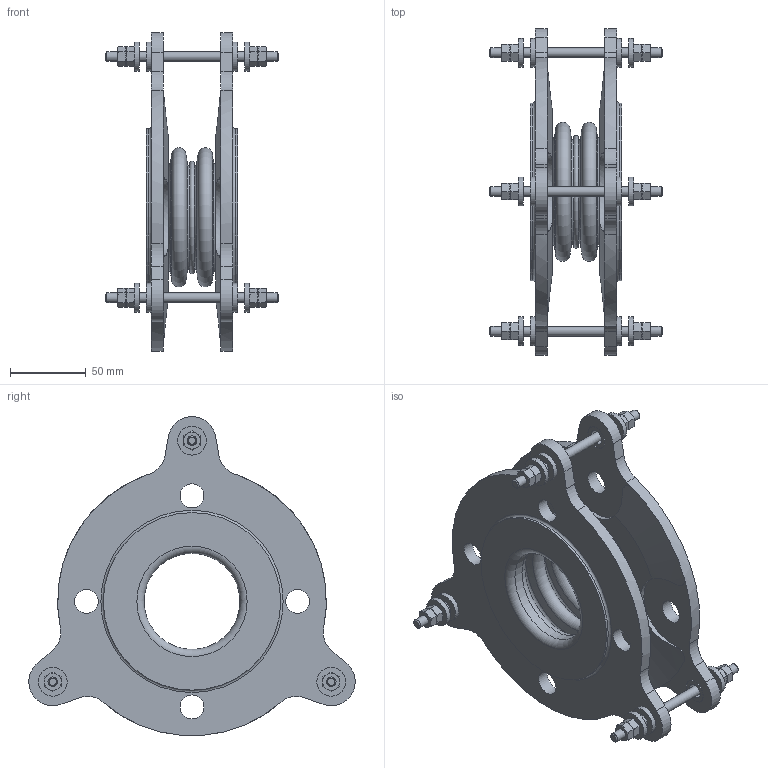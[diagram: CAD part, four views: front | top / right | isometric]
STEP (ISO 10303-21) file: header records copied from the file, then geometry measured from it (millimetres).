
FILE_DESCRIPTION(/* description */ (''),/* implementation_level */ '2;1');
FILE_NAME(/* name */ 'C:\Users\rramoutar\Desktop\802\802 2.5IDx2.375FF.stp',/* time_stamp */ '2016-04-24T12:07:24-04:00',/* author */ ('rramoutar'),/* organization */ ('Mason Industries Inc.'),/* preprocessor_version */ 'ST-DEVELOPER v15.6',/* originating_system */ 'Autodesk Inventor 2015',/* authorisation */ '');
FILE_SCHEMA (('CONFIG_CONTROL_DESIGN'));
Length unit declared in the file: inch
Products named in the file (1): 802 2.5IDx2.375FF
Bounding box: 114.3 x 215.98 x 210.86 mm (x, y, z)
Volume: 529695 mm3; surface area: 184465.9 mm2
Topology: 5 solids, 11 shells, 490 faces, 1066 edges, 632 vertices
Faces by surface type: cone 190, plane 164, cylinder 115, torus 21
Full cylindrical faces by diameter (mm): 6.35 x15, 7.938 x6, 9.922 x6, 15.478 x6, 15.875 x14, 19.05 x12, 63.5 x2, 66.675 x2, 68.263 x2, 117.475 x2
Entity records: 12764 total; most frequent: CARTESIAN_POINT 2954, DIRECTION 1958, ORIENTED_EDGE 1828, EDGE_CURVE 914, AXIS2_PLACEMENT_3D 889, EDGE_LOOP 693, VERTEX_POINT 605, FACE_OUTER_BOUND 490
